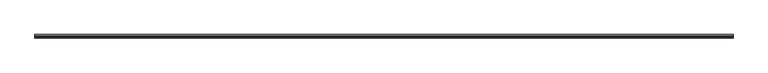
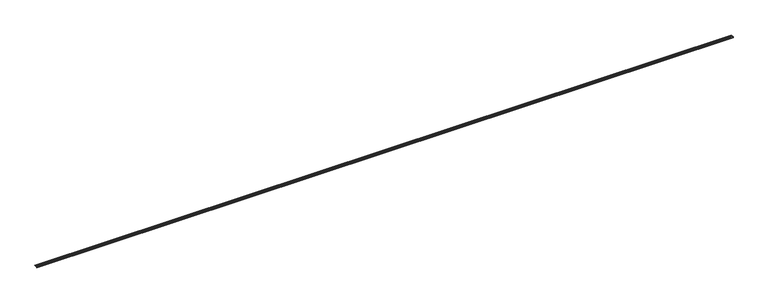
"""IFC4 building model written with IfcOpenShell, lengths in millimetres: slab geometry, ROSA GRES_G49 : Pieza G49_Aqua_Plomo_Anti-Slip."""

from ifc_helpers import new_model, si_unit, point, frame, frame_2d, origin, place, context, project, spatial, polyline, circle_curve, trimmed, segment, composite_curve, outline, extrude, source, transform, mapped, element, save


def slab_a36d192f(model_context):
    return source(origin(), model_context, "Body", "SweptSolid", [
        extrude(outline(composite_curve([segment(polyline([(0.4959854, 174.3946403), (-0.6795727, 188.8372115)]), True, "CONTINUOUS"), segment(trimmed(circle_curve(frame_2d((9.287465, 189.648482)), 10.0), [point((-0.6795727, 188.8372115))], [point((8.4761969, 199.6155199))], False, "CARTESIAN"), True, "CONTINUOUS"), segment(polyline([(8.4761969, 199.6155199), (34.9297931, 201.7687131), (38.3959439, 195.0159662), (41.0138307, 190.7196924), (42.1786827, 188.9557911)]), True, "CONTINUOUS"), segment(trimmed(circle_curve(frame_2d((44.6810926, 190.6083422)), 2.9988298), [point((42.1786827, 188.9557911))], [point((44.9243788, 187.6193972))], True, "CARTESIAN"), True, "CONTINUOUS"), segment(polyline([(44.9243788, 187.6193972), (64.4101321, 189.205447)]), True, "CONTINUOUS"), segment(trimmed(circle_curve(frame_2d((63.9188624, 195.2410459)), 6.0555595), [point((64.4101321, 189.205447))], [point((69.5852402, 193.1051707))], True, "CARTESIAN"), True, "CONTINUOUS"), segment(polyline([(69.5852402, 193.1051707), (69.9836117, 193.8870189), (117.9849268, 197.7941027), (119.1037338, 184.0487594), (38.2820268, 177.4702483)]), True, "CONTINUOUS"), segment(trimmed(circle_curve(frame_2d((27.0041663, 174.9936892)), 11.5465789), [point((38.2820268, 177.4702483))], [point((15.4742511, 175.6138015))], True, "CARTESIAN"), True, "CONTINUOUS"), segment(polyline([(15.4742511, 175.6138015), (0.4959854, 174.3946403)]), True, "CONTINUOUS")], self_intersect=False)), frame((0.0, 0.0, 0.0), z_axis=(1.0, 0.0, 0.0), x_axis=(0.0, 1.0, 0.0)), (0.0, 0.0, 1.0), 24991.25),
    ])


if __name__ == "__main__":
    model = new_model("IFC4")
    model_context = context("Model", 3, world=origin())
    ifc_project = project(units=[si_unit("LENGTHUNIT", "METRE", prefix="MILLI")], contexts=[model_context])
    site = spatial("IfcSite", under=ifc_project)
    building = spatial("IfcBuilding", under=site)
    placement = place(None, origin())
    slab_shape = slab_a36d192f(model_context)
    element("IfcSlab", 1, ObjectType="ROSA GRES_G49 : Pieza G49_Aqua_Plomo_Anti-Slip", at=placement, inside=building, context=model_context, shape_type="MappedRepresentation", body=[
        mapped(slab_shape, transform((0.0, 0.0, 0.0), x_axis=(1.0, 0.0, 0.0), y_axis=(0.0, 1.0, 0.0), z_axis=(0.0, 0.0, 1.0))),
    ])
    save(model, "model.ifc")
